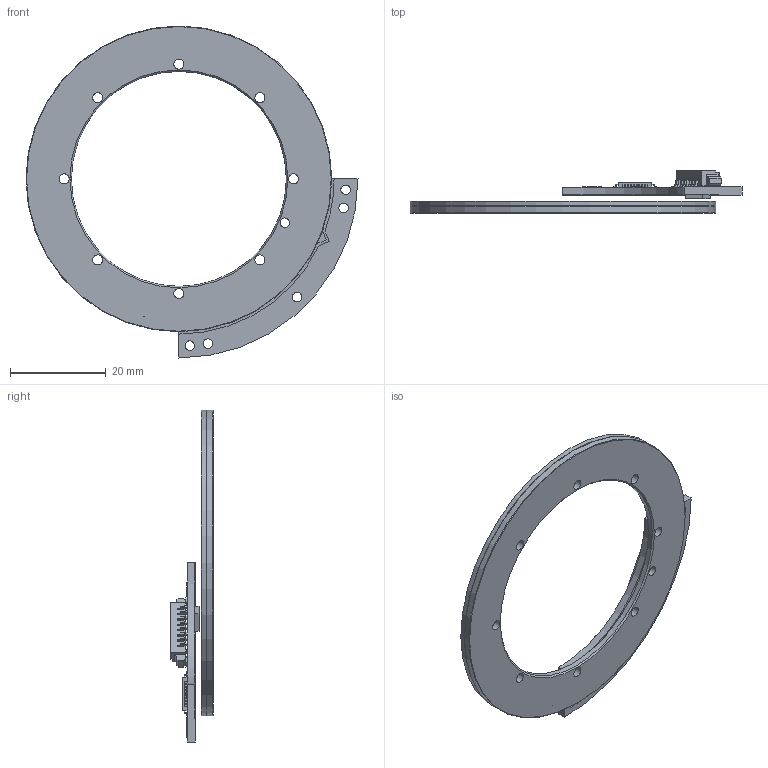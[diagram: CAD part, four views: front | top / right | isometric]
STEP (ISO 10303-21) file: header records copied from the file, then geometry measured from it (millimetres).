
FILE_DESCRIPTION (( 'STEP AP203' ), '1' );
FILE_NAME ('eCoder45.STEP', '2022-12-28T09:44:54', ( 'Windows User' ), ( 'P R C' ), 'SwSTEP 2.0', 'SolidWorks 2021', '' );
FILE_SCHEMA (( 'CONFIG_CONTROL_DESIGN' ));
Length unit declared in the file: millimetre
Products named in the file (1): eCoder45
Bounding box: 69.5 x 8.95 x 69.5 mm (x, y, z)
Volume: 4671.8 mm3; surface area: 8392.1 mm2
Topology: 4 solids, 4 shells, 926 faces, 2408 edges, 1545 vertices
Faces by surface type: plane 743, cylinder 177, cone 4, bspline 2
Full cylindrical faces by diameter (mm): 2 x9, 2.1 x11, 4 x3, 45 x1, 51 x1, 64 x2
Entity records: 27833 total; most frequent: CARTESIAN_POINT 5305, ORIENTED_EDGE 4744, DIRECTION 4432, EDGE_CURVE 2372, VECTOR 1866, LINE 1866, VERTEX_POINT 1540, AXIS2_PLACEMENT_3D 1283
